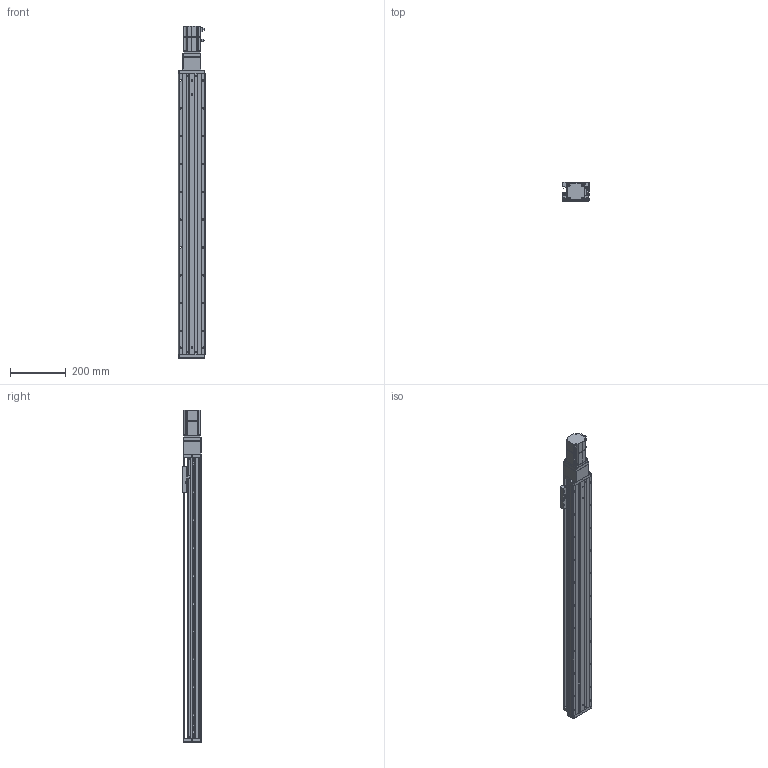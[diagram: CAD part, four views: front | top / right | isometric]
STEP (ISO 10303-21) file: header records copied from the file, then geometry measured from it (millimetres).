
FILE_DESCRIPTION (( 'STEP AP203' ), '1' );
FILE_NAME ('KTHA100-850-BC-M20-C4L.step', '2022-04-26T01:45:54', ( '微软用户' ), ( '微软中国' ), 'SwSTEP 2.0', 'SolidWorks 2020', '' );
FILE_SCHEMA (( 'CONFIG_CONTROL_DESIGN' ));
Length unit declared in the file: millimetre
Products named in the file (18): GB¨uT 70.2-M3¡Á5_M3¡Á6; CTHA60-016; EE_SX911P_R; GBT 70.3-M3℅6; CTHA60-017; _X2_4E0983F1_X0_200W_1; KTHA100-001_1010; CTHA60-021; CTHA86-013; KTHA100-002; GBT77-2000 M3×3; CTHA86-027; KTHA100-004; GBT 70.1-M3℅6; CTHA86-006-1_CTHA86-006-2; KTHA100-005; GBT70.1 M5℅16; KTHA100-850-BC-M20-C4L
Assembly tree (56 placements, depth 2):
  KTHA100-850-BC-M20-C4L
    KTHA100-001_1010
    KTHA100-002
    KTHA100-004
    KTHA100-005
    GB¨uT 70.2-M3¡Á5_M3¡Á6  x6
    EE_SX911P_R  x3
    CTHA60-017  x3
    CTHA60-021  x2
    GBT77-2000 M3×3  x6
    GBT 70.1-M3℅6  x6
    GBT70.1 M5℅16  x14
    CTHA60-016  x2
    GBT 70.3-M3℅6  x6
    _X2_4E0983F1_X0_200W_1
    CTHA86-013
    CTHA86-027
    CTHA86-006-1_CTHA86-006-2
Bounding box: 98.82 x 68 x 1192.5 mm (x, y, z)
Volume: 4415063.8 mm3; surface area: 730790.3 mm2
Topology: 59 solids, 59 shells, 2467 faces, 5912 edges, 3652 vertices
Faces by surface type: plane 1263, cylinder 679, cone 336, torus 104, bspline 69, sphere 16
Entity records: 43536 total; most frequent: CARTESIAN_POINT 8311, DIRECTION 6879, ORIENTED_EDGE 6592, EDGE_CURVE 3296, AXIS2_PLACEMENT_3D 2392, LINE 2095, VECTOR 2095, VERTEX_POINT 2070
